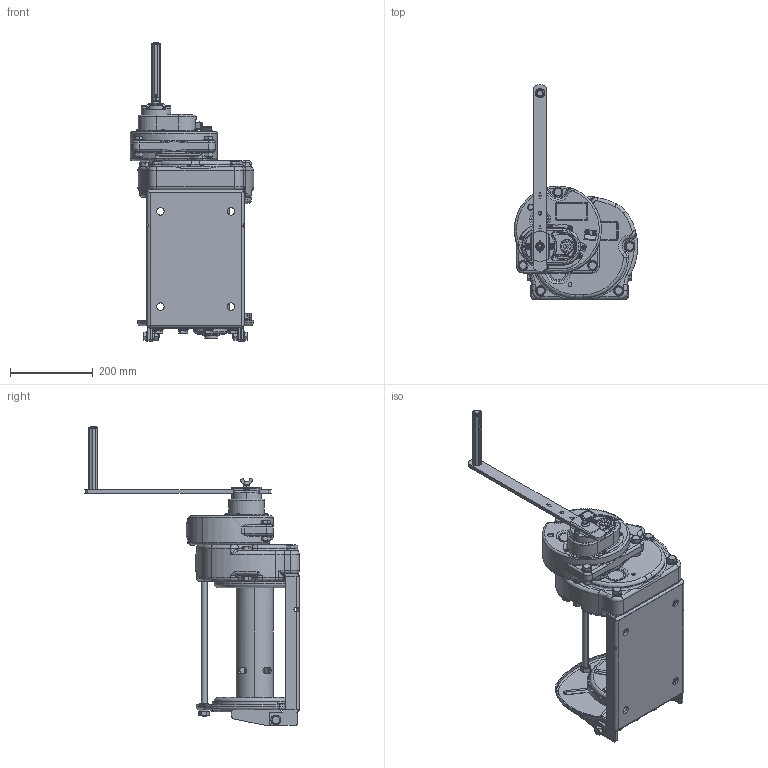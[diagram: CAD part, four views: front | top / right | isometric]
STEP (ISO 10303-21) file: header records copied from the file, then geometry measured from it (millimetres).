
FILE_DESCRIPTION( (''), '2;1');
FILE_NAME ('GM-30-GS.stp','2023-12-22T14:56:33',(''),(''),'spGate 19.8.2 (****-****-****-****)','','');
FILE_SCHEMA (('AUTOMOTIVE_DESIGN'));
Length unit declared in the file: millimetre
Products named in the file (3): Assembly; GM-30-GS-prt0; GM-30-GS-prt1
Assembly tree (2 placements, depth 2):
  Assembly
    GM-30-GS-prt0
    GM-30-GS-prt1
Bounding box: 297.46 x 518.43 x 723.3 mm (x, y, z)
Volume: 10627881.6 mm3; surface area: 1153718.2 mm2
Topology: 2 solids, 2 shells, 3262 faces, 8418 edges, 5243 vertices
Faces by surface type: plane 1546, cylinder 1018, bspline 614, sphere 84
Entity records: 179771 total; most frequent: CARTESIAN_POINT 36581, ORIENTED_EDGE 16624, DIRECTION 15733, COLOUR_RGB 11576, PRESENTATION_STYLE_ASSIGNMENT 11576, STYLED_ITEM 11576, EDGE_CURVE 8312, DRAUGHTING_PRE_DEFINED_CURVE_FONT 8312
